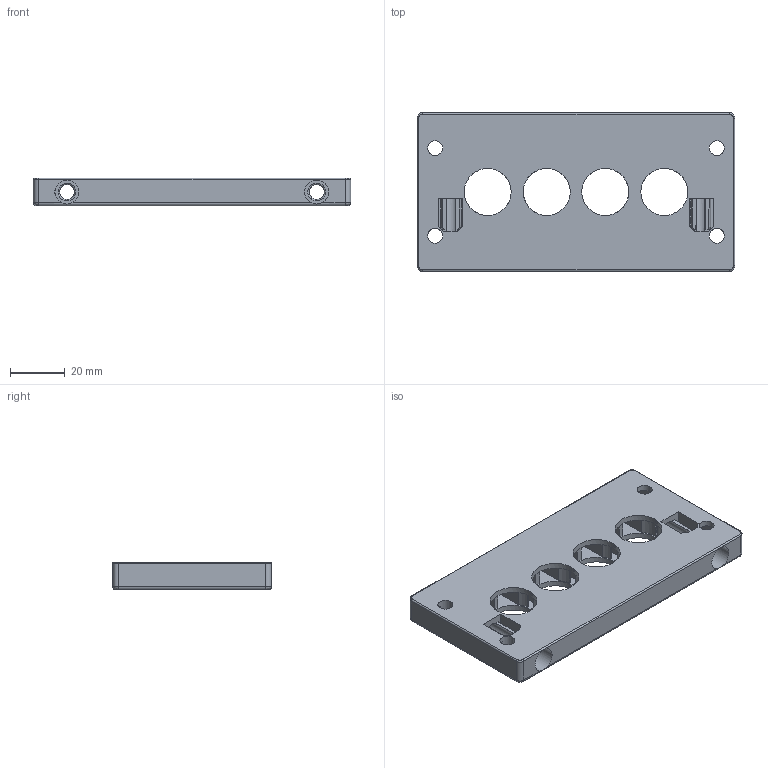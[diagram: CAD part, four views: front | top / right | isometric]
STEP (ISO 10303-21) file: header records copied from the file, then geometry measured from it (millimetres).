
FILE_DESCRIPTION (( 'STEP AP203' ), '1' );
FILE_NAME ('171012 KDL16-4.STEP', '2023-04-14T04:56:44', ( '' ), ( '' ), 'SwSTEP 2.0', 'SolidWorks 2016', '' );
FILE_SCHEMA (( 'CONFIG_CONTROL_DESIGN' ));
Length unit declared in the file: millimetre
Products named in the file (1): 171012 KDL16-4
Bounding box: 116 x 58 x 10 mm (x, y, z)
Volume: 34866.1 mm3; surface area: 33337.3 mm2
Topology: 1 solids, 1 shells, 547 faces, 1572 edges, 1019 vertices
Faces by surface type: plane 397, cylinder 101, bspline 40, cone 9
Full cylindrical faces by diameter (mm): 5.5 x8, 8.8 x2, 17.2 x8
Entity records: 19369 total; most frequent: CARTESIAN_POINT 5770, ORIENTED_EDGE 3048, DIRECTION 2443, EDGE_CURVE 1524, VECTOR 1143, LINE 1143, VERTEX_POINT 1003, AXIS2_PLACEMENT_3D 650
